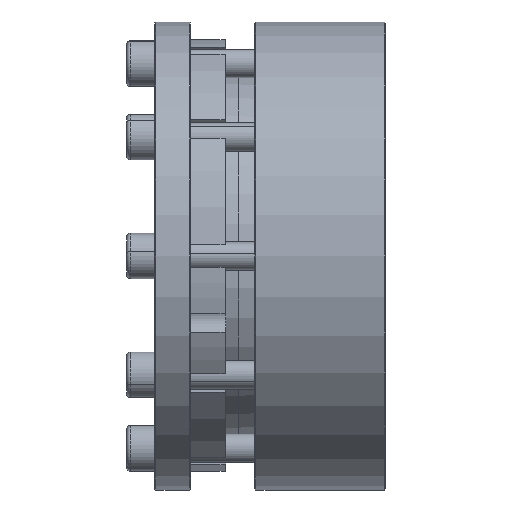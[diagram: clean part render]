
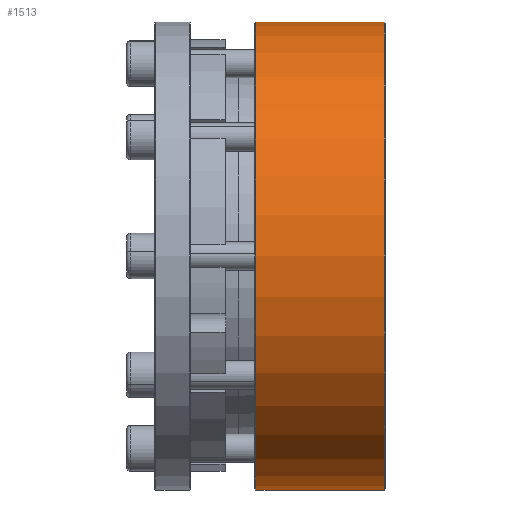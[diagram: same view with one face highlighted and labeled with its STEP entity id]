
A CAD part, front view. The second image highlights one B-rep face of the part: STEP entity #1513.
In plain terms, the highlighted cylindrical face has radius 82.425 mm (diameter 164.85 mm), a partial arc.
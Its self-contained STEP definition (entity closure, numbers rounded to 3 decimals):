
#156 = LINE ( 'NONE', #4530, #10632 ) ;
#484 = CARTESIAN_POINT ( 'NONE',  ( -70.581, 26.04, -82.425 ) ) ;
#501 = CIRCLE ( 'NONE', #9809, 82.425 ) ;
#502 = VERTEX_POINT ( 'NONE', #10727 ) ;
#1095 = EDGE_CURVE ( 'NONE', #4408, #4509, #9397, .T. ) ;
#1465 = DIRECTION ( 'NONE',  ( -1., 0., 0. ) ) ;
#1513 = ADVANCED_FACE ( 'NONE', ( #11124 ), #8445, .T. ) ;
#1544 = DIRECTION ( 'NONE',  ( -1., 0., 0. ) ) ;
#1556 = EDGE_CURVE ( 'NONE', #502, #4509, #501, .T. ) ;
#1644 = ORIENTED_EDGE ( 'NONE', *, *, #1095, .F. ) ;
#1745 = CIRCLE ( 'NONE', #8257, 82.425 ) ;
#2162 = AXIS2_PLACEMENT_3D ( 'NONE', #10429, #4131, #8559 ) ;
#2419 = CARTESIAN_POINT ( 'NONE',  ( -24.981, 26.04, 0. ) ) ;
#2717 = VECTOR ( 'NONE', #1465, 1000. ) ;
#3698 = EDGE_LOOP ( 'NONE', ( #1644, #4967, #9647, #5407 ) ) ;
#4071 = CARTESIAN_POINT ( 'NONE',  ( -70.181, 26.04, 0. ) ) ;
#4107 = DIRECTION ( 'NONE',  ( 0., 0., 1. ) ) ;
#4131 = DIRECTION ( 'NONE',  ( -1., 0., 0. ) ) ;
#4408 = VERTEX_POINT ( 'NONE', #6438 ) ;
#4509 = VERTEX_POINT ( 'NONE', #4986 ) ;
#4530 = CARTESIAN_POINT ( 'NONE',  ( -70.581, 26.04, 82.425 ) ) ;
#4967 = ORIENTED_EDGE ( 'NONE', *, *, #10404, .T. ) ;
#4986 = CARTESIAN_POINT ( 'NONE',  ( -70.181, 26.04, -82.425 ) ) ;
#5407 = ORIENTED_EDGE ( 'NONE', *, *, #1556, .T. ) ;
#6037 = CARTESIAN_POINT ( 'NONE',  ( -24.981, 26.04, 82.425 ) ) ;
#6438 = CARTESIAN_POINT ( 'NONE',  ( -24.981, 26.04, -82.425 ) ) ;
#7209 = DIRECTION ( 'NONE',  ( -1., 0., 0. ) ) ;
#7421 = EDGE_CURVE ( 'NONE', #7763, #502, #156, .T. ) ;
#7697 = DIRECTION ( 'NONE',  ( 0., 0., -1. ) ) ;
#7763 = VERTEX_POINT ( 'NONE', #6037 ) ;
#8257 = AXIS2_PLACEMENT_3D ( 'NONE', #2419, #1544, #4107 ) ;
#8445 = CYLINDRICAL_SURFACE ( 'NONE', #2162, 82.425 ) ;
#8559 = DIRECTION ( 'NONE',  ( 0., 0., 1. ) ) ;
#9397 = LINE ( 'NONE', #484, #2717 ) ;
#9500 = DIRECTION ( 'NONE',  ( 1., 0., 0. ) ) ;
#9647 = ORIENTED_EDGE ( 'NONE', *, *, #7421, .T. ) ;
#9809 = AXIS2_PLACEMENT_3D ( 'NONE', #4071, #9500, #7697 ) ;
#10404 = EDGE_CURVE ( 'NONE', #4408, #7763, #1745, .T. ) ;
#10429 = CARTESIAN_POINT ( 'NONE',  ( -70.581, 26.04, 0. ) ) ;
#10632 = VECTOR ( 'NONE', #7209, 1000. ) ;
#10727 = CARTESIAN_POINT ( 'NONE',  ( -70.181, 26.04, 82.425 ) ) ;
#11124 = FACE_OUTER_BOUND ( 'NONE', #3698, .T. ) ;
